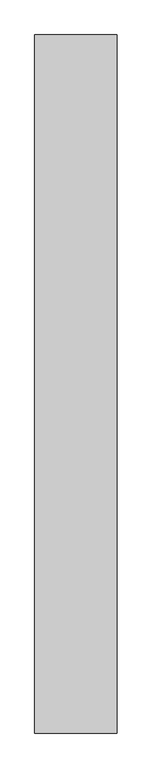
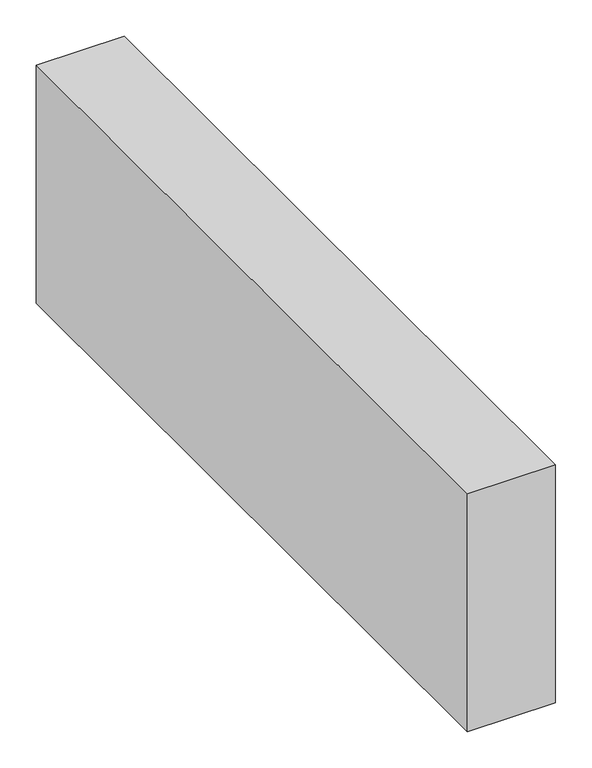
"""IFC4 building model written with IfcOpenShell, lengths in millimetres: proxy geometry."""

from ifc_helpers import new_model, si_unit, frame, origin, place, context, project, spatial, polyline, outline, extrude, source, transform, mapped, element, save


def structural_framing_0044cacd(model_context):
    return source(origin(), model_context, "Body", "SweptSolid", [
        extrude(outline(polyline([(70.0, -593.8), (-70.0, -593.8), (-70.0, 593.8), (70.0, 593.8), (70.0, -593.8)])), frame((0.0, 0.0, -400.0), z_axis=(0.0, 0.0, 1.0), x_axis=(1.0, 0.0, 0.0)), (0.0, 0.0, 1.0), 400.0),
    ])


if __name__ == "__main__":
    model = new_model("IFC4")
    model_context = context("Model", 3, world=origin())
    ifc_project = project(units=[si_unit("LENGTHUNIT", "METRE", prefix="MILLI")], contexts=[model_context])
    site = spatial("IfcSite", under=ifc_project)
    building = spatial("IfcBuilding", under=site)
    placement = place(None, origin())
    structural_framing_shape = structural_framing_0044cacd(model_context)
    element("IfcBuildingElementProxy", 1, Name="Structural Framing", at=placement, inside=building, context=model_context, shape_type="MappedRepresentation", body=[
        mapped(structural_framing_shape, transform((0.0, 0.0, 0.0), x_axis=(1.0, 0.0, 0.0), y_axis=(0.0, 1.0, 0.0), z_axis=(0.0, 0.0, 1.0))),
    ])
    save(model, "model.ifc")
